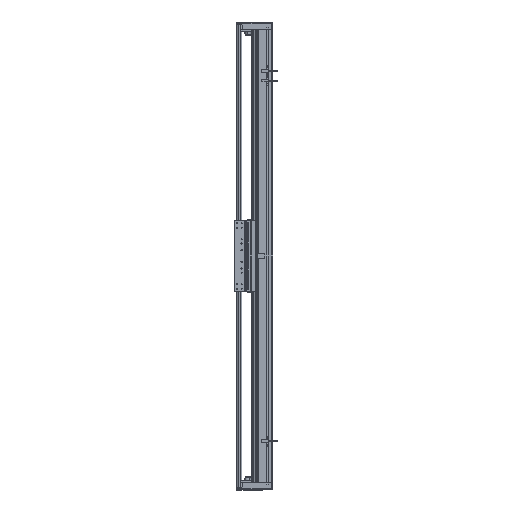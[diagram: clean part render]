
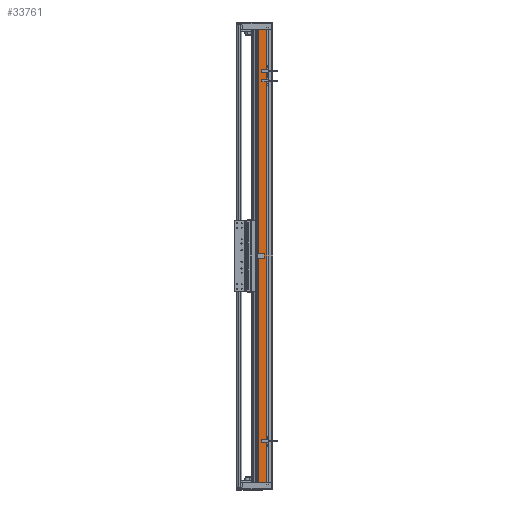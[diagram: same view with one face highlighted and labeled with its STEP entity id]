
A CAD part, left-side view. The second image highlights one B-rep face of the part: STEP entity #33761.
In plain terms, the highlighted planar face has unit normal (-1, 0, 0).
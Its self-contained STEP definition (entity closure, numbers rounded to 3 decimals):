
#2208 = CARTESIAN_POINT ( 'NONE',  ( -97.5, 36.95, 600. ) ) ;
#2323 = DIRECTION ( 'NONE',  ( 0., 0., -1. ) ) ;
#5539 = CARTESIAN_POINT ( 'NONE',  ( -97.5, 14.45, 600. ) ) ;
#11867 = CARTESIAN_POINT ( 'NONE',  ( -97.5, 36.95, 600. ) ) ;
#12583 = DIRECTION ( 'NONE',  ( 0., 1., 0. ) ) ;
#15212 = VERTEX_POINT ( 'NONE', #118095 ) ;
#16022 = EDGE_CURVE ( 'NONE', #15212, #35864, #94808, .T. ) ;
#16040 = ORIENTED_EDGE ( 'NONE', *, *, #57992, .T. ) ;
#23552 = EDGE_CURVE ( 'NONE', #142090, #50802, #40606, .T. ) ;
#24416 = ORIENTED_EDGE ( 'NONE', *, *, #29924, .F. ) ;
#26318 = EDGE_LOOP ( 'NONE', ( #16040, #51004, #24416, #35710 ) ) ;
#26556 = DIRECTION ( 'NONE',  ( 0., 0., -1. ) ) ;
#28711 = DIRECTION ( 'NONE',  ( 0., -1., 0. ) ) ;
#29924 = EDGE_CURVE ( 'NONE', #15212, #142090, #114642, .T. ) ;
#33761 = ADVANCED_FACE ( 'NONE', ( #65932 ), #123631, .F. ) ;
#35710 = ORIENTED_EDGE ( 'NONE', *, *, #16022, .T. ) ;
#35864 = VERTEX_POINT ( 'NONE', #79692 ) ;
#40606 = LINE ( 'NONE', #96114, #87603 ) ;
#50802 = VERTEX_POINT ( 'NONE', #85795 ) ;
#51004 = ORIENTED_EDGE ( 'NONE', *, *, #23552, .F. ) ;
#51636 = LINE ( 'NONE', #130058, #86661 ) ;
#57992 = EDGE_CURVE ( 'NONE', #35864, #50802, #51636, .T. ) ;
#59154 = DIRECTION ( 'NONE',  ( 0., -1., 0. ) ) ;
#65932 = FACE_OUTER_BOUND ( 'NONE', #26318, .T. ) ;
#79692 = CARTESIAN_POINT ( 'NONE',  ( -97.5, 36.95, -600. ) ) ;
#82211 = CARTESIAN_POINT ( 'NONE',  ( -97.5, 36.95, 600. ) ) ;
#85795 = CARTESIAN_POINT ( 'NONE',  ( -97.5, 14.45, -600. ) ) ;
#86661 = VECTOR ( 'NONE', #28711, 1000. ) ;
#87603 = VECTOR ( 'NONE', #26556, 1000. ) ;
#88557 = VECTOR ( 'NONE', #2323, 1000. ) ;
#91774 = DIRECTION ( 'NONE',  ( 1., 0., 0. ) ) ;
#94808 = LINE ( 'NONE', #82211, #88557 ) ;
#96114 = CARTESIAN_POINT ( 'NONE',  ( -97.5, 14.45, 600. ) ) ;
#105110 = VECTOR ( 'NONE', #59154, 1000. ) ;
#114642 = LINE ( 'NONE', #2208, #105110 ) ;
#118095 = CARTESIAN_POINT ( 'NONE',  ( -97.5, 36.95, 600. ) ) ;
#123631 = PLANE ( 'NONE',  #136313 ) ;
#130058 = CARTESIAN_POINT ( 'NONE',  ( -97.5, 36.95, -600. ) ) ;
#136313 = AXIS2_PLACEMENT_3D ( 'NONE', #11867, #91774, #12583 ) ;
#142090 = VERTEX_POINT ( 'NONE', #5539 ) ;
